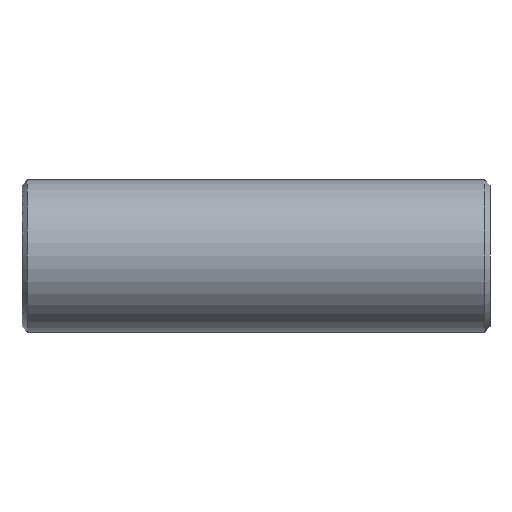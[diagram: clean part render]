
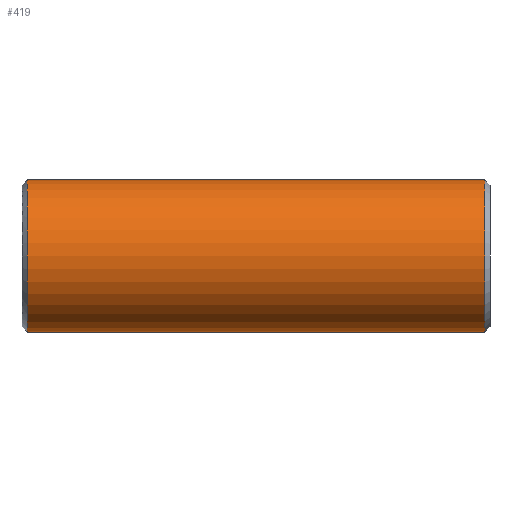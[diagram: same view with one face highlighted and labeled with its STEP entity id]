
A CAD part, front view. The second image highlights one B-rep face of the part: STEP entity #419.
In plain terms, the highlighted cylindrical face has radius 14 mm (diameter 28 mm), a partial arc.
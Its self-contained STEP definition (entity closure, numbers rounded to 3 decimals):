
#231=CARTESIAN_POINT('Vertex',(1.,0.,-14.)) ;
#238=CARTESIAN_POINT('Vertex',(1.,0.,14.)) ;
#267=CARTESIAN_POINT('Axis2P3D Location',(1.,0.,0.)) ;
#271=CARTESIAN_POINT('Vertex',(1.,-14.,0.)) ;
#274=CARTESIAN_POINT('Axis2P3D Location',(1.,0.,0.)) ;
#359=CARTESIAN_POINT('Line Origine',(86.,0.,14.)) ;
#363=CARTESIAN_POINT('Vertex',(85.,0.,14.)) ;
#377=CARTESIAN_POINT('Vertex',(85.,0.,-14.)) ;
#380=CARTESIAN_POINT('Line Origine',(86.,0.,-14.)) ;
#394=CARTESIAN_POINT('Axis2P3D Location',(86.,0.,0.)) ;
#399=CARTESIAN_POINT('Axis2P3D Location',(85.,0.,0.)) ;
#403=CARTESIAN_POINT('Vertex',(85.,-14.,0.)) ;
#406=CARTESIAN_POINT('Axis2P3D Location',(85.,0.,0.)) ;
#268=DIRECTION('Axis2P3D Direction',(1.,0.,-0.)) ;
#275=DIRECTION('Axis2P3D Direction',(1.,0.,-0.)) ;
#360=DIRECTION('Vector Direction',(-1.,0.,0.)) ;
#381=DIRECTION('Vector Direction',(-1.,0.,0.)) ;
#395=DIRECTION('Axis2P3D Direction',(-1.,-0.,-0.)) ;
#396=DIRECTION('Axis2P3D XDirection',(0.,0.,-1.)) ;
#400=DIRECTION('Axis2P3D Direction',(-1.,-0.,-0.)) ;
#407=DIRECTION('Axis2P3D Direction',(-1.,-0.,-0.)) ;
#269=AXIS2_PLACEMENT_3D('Circle Axis2P3D',#267,#268,$) ;
#276=AXIS2_PLACEMENT_3D('Circle Axis2P3D',#274,#275,$) ;
#397=AXIS2_PLACEMENT_3D('Cylinder Axis2P3D',#394,#395,#396) ;
#401=AXIS2_PLACEMENT_3D('Circle Axis2P3D',#399,#400,$) ;
#408=AXIS2_PLACEMENT_3D('Circle Axis2P3D',#406,#407,$) ;
#412=ORIENTED_EDGE('',*,*,#384,.T.) ;
#413=ORIENTED_EDGE('',*,*,#405,.F.) ;
#414=ORIENTED_EDGE('',*,*,#410,.F.) ;
#415=ORIENTED_EDGE('',*,*,#365,.T.) ;
#416=ORIENTED_EDGE('',*,*,#278,.T.) ;
#417=ORIENTED_EDGE('',*,*,#273,.T.) ;
#361=VECTOR('Line Direction',#360,1.) ;
#382=VECTOR('Line Direction',#381,1.) ;
#419=ADVANCED_FACE('352-20X86',(#418),#398,.T.) ;
#270=CIRCLE('generated circle',#269,14.) ;
#277=CIRCLE('generated circle',#276,14.) ;
#402=CIRCLE('generated circle',#401,14.) ;
#409=CIRCLE('generated circle',#408,14.) ;
#398=CYLINDRICAL_SURFACE('generated cylinder',#397,14.) ;
#273=EDGE_CURVE('',#272,#232,#270,.T.) ;
#278=EDGE_CURVE('',#239,#272,#277,.T.) ;
#365=EDGE_CURVE('',#364,#239,#362,.T.) ;
#384=EDGE_CURVE('',#232,#378,#383,.F.) ;
#405=EDGE_CURVE('',#404,#378,#402,.F.) ;
#410=EDGE_CURVE('',#364,#404,#409,.F.) ;
#411=EDGE_LOOP('',(#412,#413,#414,#415,#416,#417)) ;
#418=FACE_OUTER_BOUND('',#411,.T.) ;
#362=LINE('Line',#359,#361) ;
#383=LINE('Line',#380,#382) ;
#232=VERTEX_POINT('',#231) ;
#239=VERTEX_POINT('',#238) ;
#272=VERTEX_POINT('',#271) ;
#364=VERTEX_POINT('',#363) ;
#378=VERTEX_POINT('',#377) ;
#404=VERTEX_POINT('',#403) ;
